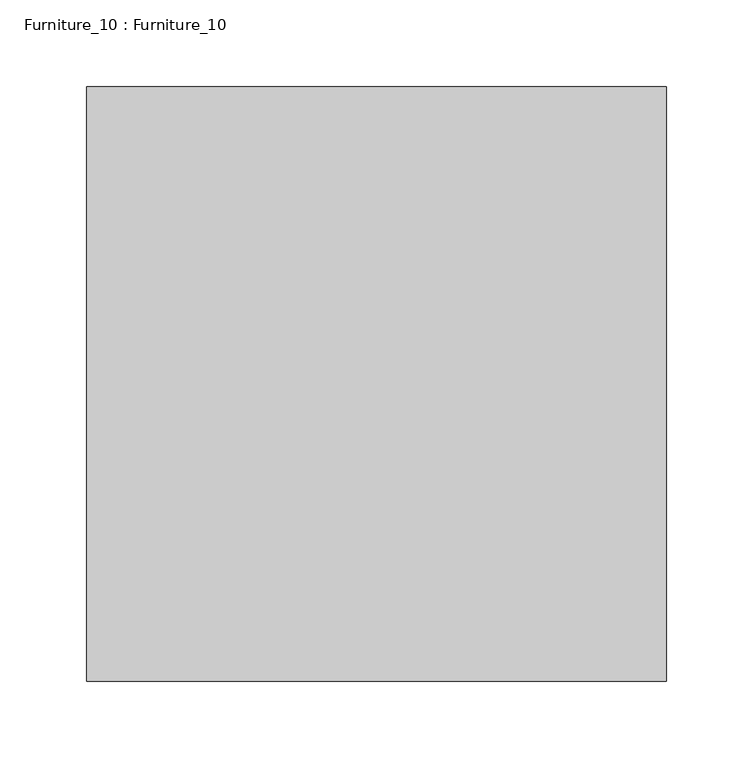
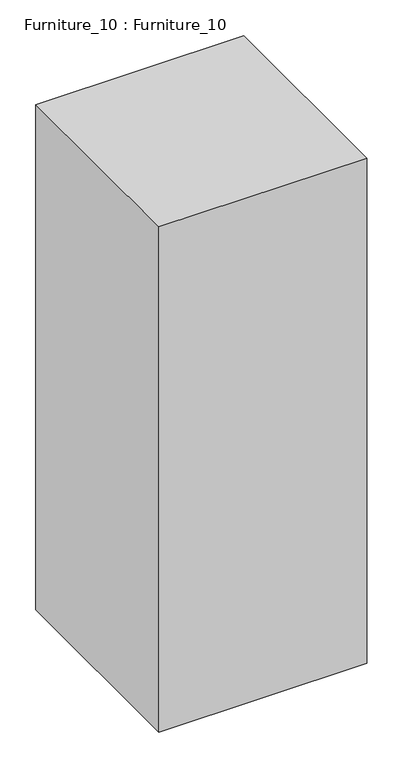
"""IFC4 building model written with IfcOpenShell, lengths in millimetres: furniture geometry, Furniture_10 : Furniture_10."""

from ifc_helpers import new_model, si_unit, frame, origin, place, context, project, spatial, polyline, outline, extrude, source, transform, mapped, element, save


def furniture_10_furniture_10_ddbf2e8e(model_context):
    return source(origin(), model_context, "Body", "SweptSolid", [
        extrude(outline(polyline([(4340.0969399, 5936.8477059), (4340.0969399, 5593.4175987), (4005.0434424, 5593.4175987), (4005.0434424, 5936.8477059), (4340.0969399, 5936.8477059)])), frame((0.0, 0.0, 3400.0), z_axis=(0.0, 0.0, 1.0), x_axis=(1.0, 0.0, 0.0)), (0.0, 0.0, 1.0), 860.4588958),
    ])


if __name__ == "__main__":
    model = new_model("IFC4")
    model_context = context("Model", 3, world=origin())
    ifc_project = project(units=[si_unit("LENGTHUNIT", "METRE", prefix="MILLI")], contexts=[model_context])
    site = spatial("IfcSite", under=ifc_project)
    building = spatial("IfcBuilding", under=site)
    placement = place(None, origin())
    furniture_10_furniture_10_shape = furniture_10_furniture_10_ddbf2e8e(model_context)
    element("IfcFurniture", 1, ObjectType="Furniture_10 : Furniture_10", at=placement, inside=building, context=model_context, shape_type="MappedRepresentation", body=[
        mapped(furniture_10_furniture_10_shape, transform((0.0, 0.0, 0.0), x_axis=(1.0, 0.0, 0.0), y_axis=(0.0, 1.0, 0.0), z_axis=(0.0, 0.0, 1.0))),
    ])
    save(model, "model.ifc")
